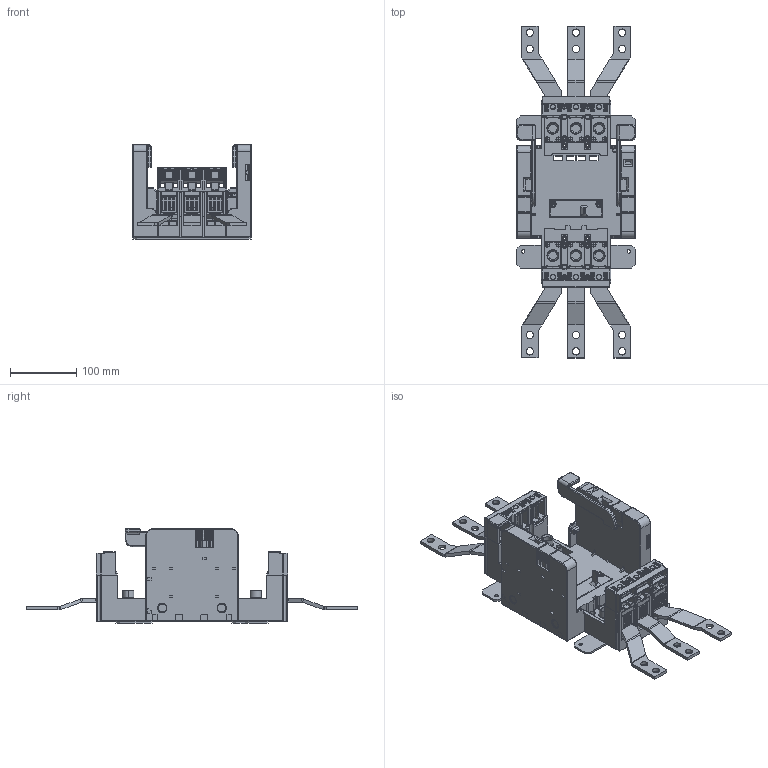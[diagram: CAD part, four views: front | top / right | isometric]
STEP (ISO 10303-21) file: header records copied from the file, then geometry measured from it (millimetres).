
FILE_DESCRIPTION (( 'STEP AP214' ), '1' );
FILE_NAME ('ZV-BD-0250-300__CS-BD-JX75__OD-BHD-MS75_zj_02.step', '2013-08-22T12:25:57', ( '' ), ( '' ), 'SwSTEP 2.0', 'SolidWorks 2011', '' );
FILE_SCHEMA (( 'AUTOMOTIVE_DESIGN' ));
Length unit declared in the file: millimetre
Products named in the file (1): ZV-BD-0250-300__CS-BD-JX75__OD-BHD-MS75_zj_02
Bounding box: 180 x 503 x 143 mm (x, y, z)
Volume: 2163844.4 mm3; surface area: 560211.5 mm2
Topology: 11 solids, 12 shells, 5792 faces, 15412 edges, 9652 vertices
Faces by surface type: plane 3293, cylinder 1888, bspline 380, cone 109, torus 98, sphere 24
Entity records: 248159 total; most frequent: CARTESIAN_POINT 43379, ORIENTED_EDGE 30356, DIRECTION 28215, EDGE_CURVE 15178, LINE 10323, VECTOR 10323, VERTEX_POINT 9652, AXIS2_PLACEMENT_3D 8946
